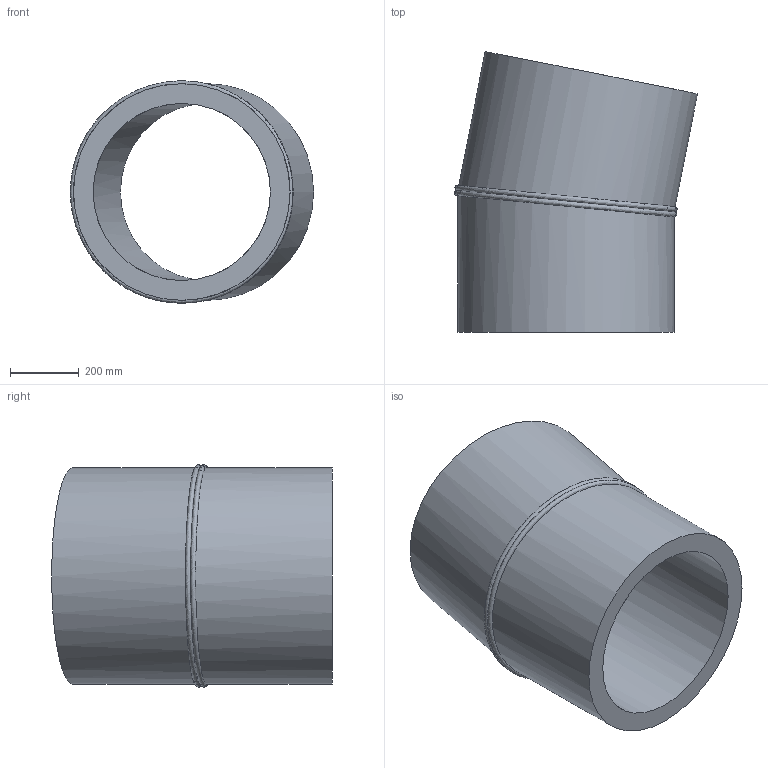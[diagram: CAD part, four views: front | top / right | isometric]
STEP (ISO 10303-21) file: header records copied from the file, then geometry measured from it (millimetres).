
FILE_DESCRIPTION(/* description */ ('Unknown'),/* implementation_level */ '2;1');
FILE_NAME(/* name */ 'Curva 11.25° a settore DE630 SDR11',/* time_stamp */ '2022-07-22T14:54:24+02:00',/* author */ ('Unknown'),/* organization */ ('Unknown'),/* preprocessor_version */ 'ST-DEVELOPER v18.102',/* originating_system */ 'Solid Edge',/* authorisation */ 'Unknown');
FILE_SCHEMA (('AUTOMOTIVE_DESIGN {1 0 10303 214 3 1 1}'));
Length unit declared in the file: millimetre
Products named in the file (2): Curva 11.25° a settore DE630 SDR11; Tubo x Gomito 11.25° DE630 SDR11
Assembly tree (2 placements, depth 2):
  Curva 11.25° a settore DE630 SDR11
    Tubo x Gomito 11.25° DE630 SDR11  x2
Bounding box: 707.24 x 816.18 x 646.45 mm (x, y, z)
Volume: 78836755.2 mm3; surface area: 3197207.1 mm2
Topology: 2 solids, 2 shells, 10 faces, 20 edges, 14 vertices
Faces by surface type: cylinder 4, plane 4, bspline 2
Full cylindrical faces by diameter (mm): 515.6 x2, 630 x2
Entity records: 1297 total; most frequent: CARTESIAN_POINT 1160, DIRECTION 20, ORIENTED_EDGE 10, EDGE_LOOP 10, FACE_BOUND 10, AXIS2_PLACEMENT_3D 10, EDGE_CURVE 5, VERTEX_POINT 5
